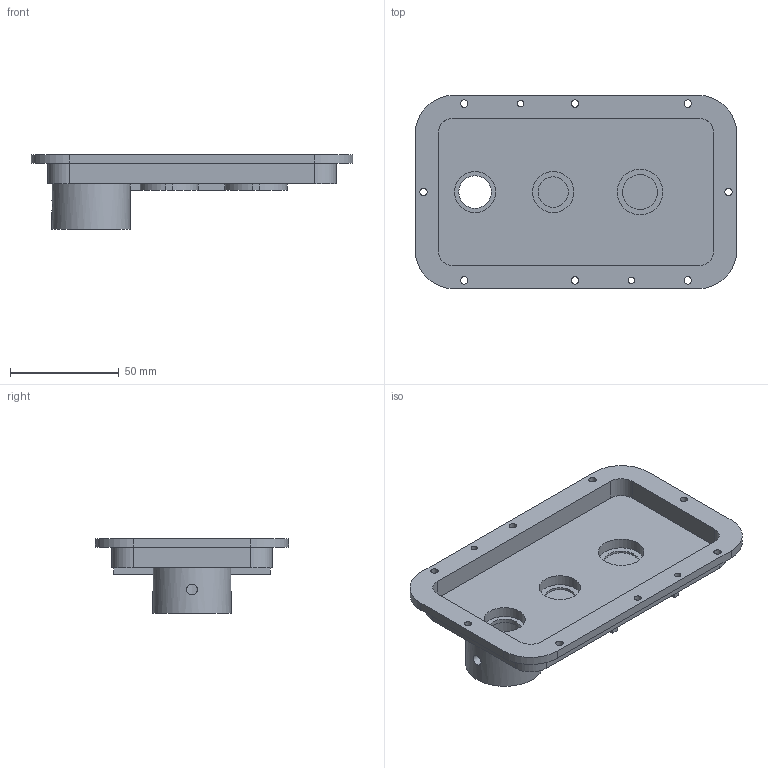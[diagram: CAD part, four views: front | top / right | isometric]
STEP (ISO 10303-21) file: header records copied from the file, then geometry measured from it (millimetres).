
FILE_DESCRIPTION(('Open CASCADE Model'),'2;1');
FILE_NAME('01_Housing_Front','2026-10-20T19:44:35',('Author'),( 'Open CASCADE'),'Open CASCADE STEP processor 8.0','build123d', 'Unknown');
FILE_SCHEMA(('AUTOMOTIVE_DESIGN { 1 0 10303 214 1 1 1 1 }'));
Length unit declared in the file: millimetre
Products named in the file (1): 01_Housing_Front
Bounding box: 148 x 89 x 34.5 mm (x, y, z)
Volume: 76011.8 mm3; surface area: 40899.9 mm2
Topology: 1 solids, 1 shells, 82 faces, 207 edges, 138 vertices
Faces by surface type: plane 42, cylinder 40
Full cylindrical faces by diameter (mm): 2.52 x2, 3 x2, 3.4 x8, 5 x1, 14 x1, 15 x1, 16 x1, 19 x2, 21 x1, 22 x1, 36 x1
Entity records: 5509 total; most frequent: CARTESIAN_POINT 1232, DIRECTION 805, ORIENTED_EDGE 414, PCURVE 414, DEFINITIONAL_REPRESENTATION 414, LINE 407, VECTOR 407, EDGE_CURVE 207
